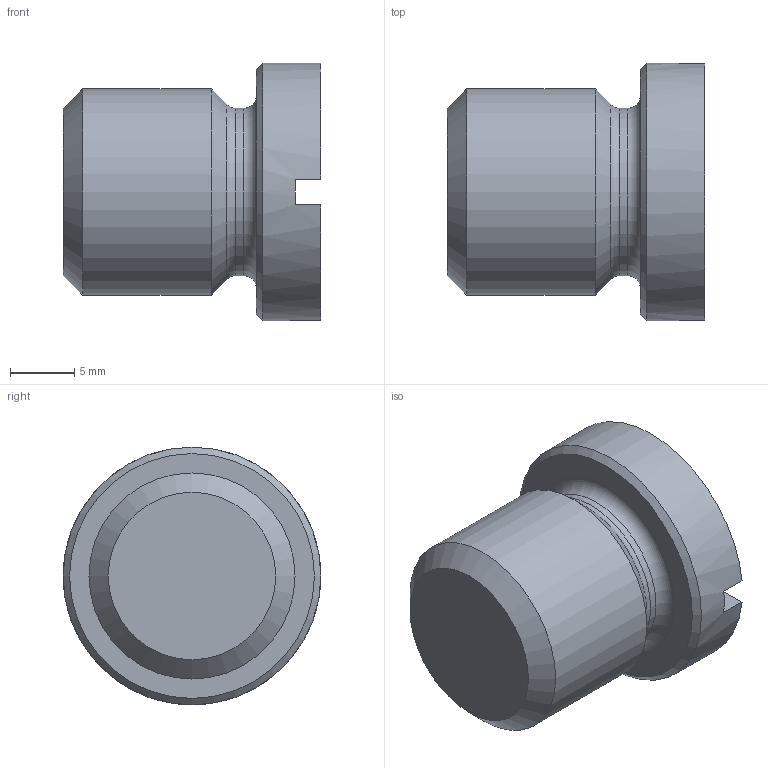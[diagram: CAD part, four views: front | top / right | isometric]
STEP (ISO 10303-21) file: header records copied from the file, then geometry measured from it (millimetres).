
FILE_DESCRIPTION(('STEP AP203'), '1');
FILE_NAME('蚁显1800.01.01.16.011 - 青汶篪赅', '', ('UNSPECIFIED'), ('UNSPECIFIED'), 'C3D Converter', 'C3D Toolkit', '');
FILE_SCHEMA(('CONFIG_CONTROL_DESIGN'));
Length unit declared in the file: millimetre
Products named in the file (1): ТППФ1800.01.01.16.011
Bounding box: 20 x 20 x 20 mm (x, y, z)
Volume: 4266.4 mm3; surface area: 1754.2 mm2
Topology: 1 solids, 1 shells, 15 faces, 30 edges, 18 vertices
Faces by surface type: plane 7, cylinder 3, cone 3, torus 2
Full cylindrical faces by diameter (mm): 13 x1, 16 x1, 20 x1
Entity records: 510 total; most frequent: DIRECTION 68, CARTESIAN_POINT 56, ORIENTED_EDGE 44, AXIS2_PLACEMENT_3D 30, EDGE_LOOP 24, EDGE_CURVE 22, VERTEX_POINT 18, COLOUR_RGB 16
